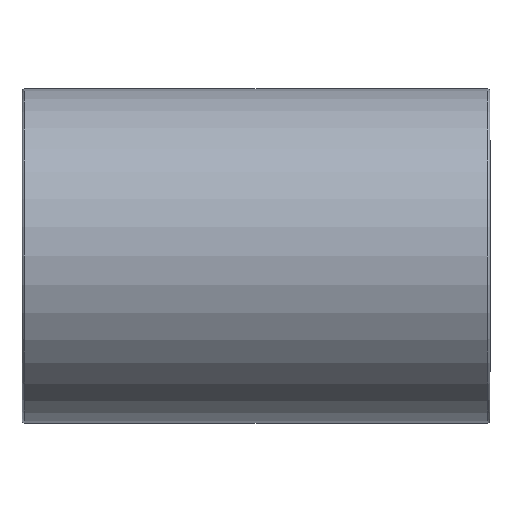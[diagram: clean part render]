
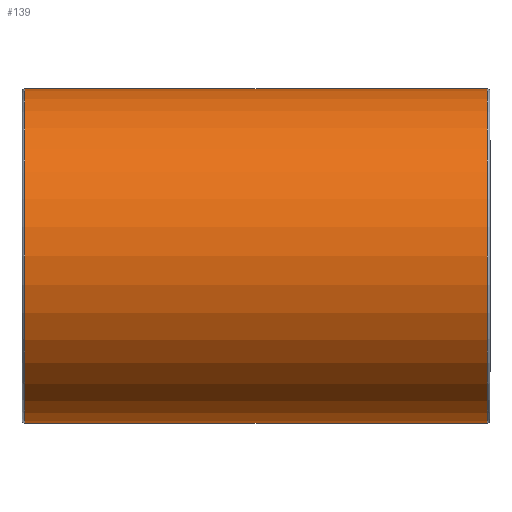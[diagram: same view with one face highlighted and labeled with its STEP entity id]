
A CAD part, front view. The second image highlights one B-rep face of the part: STEP entity #139.
In plain terms, the highlighted cylindrical face has radius 15 mm (diameter 30 mm), a full revolution.
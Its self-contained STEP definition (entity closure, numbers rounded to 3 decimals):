
#16=CYLINDRICAL_SURFACE('',#158,15.);
#27=FACE_BOUND('',#56,.T.);
#39=FACE_OUTER_BOUND('',#55,.T.);
#55=EDGE_LOOP('',(#115));
#56=EDGE_LOOP('',(#116));
#75=CIRCLE('',#157,15.);
#76=CIRCLE('',#159,15.);
#87=VERTEX_POINT('',#236);
#88=VERTEX_POINT('',#239);
#99=EDGE_CURVE('',#87,#87,#75,.T.);
#100=EDGE_CURVE('',#88,#88,#76,.T.);
#115=ORIENTED_EDGE('',*,*,#100,.F.);
#116=ORIENTED_EDGE('',*,*,#99,.F.);
#139=ADVANCED_FACE('',(#39,#27),#16,.T.);
#157=AXIS2_PLACEMENT_3D('',#237,#191,#192);
#158=AXIS2_PLACEMENT_3D('',#238,#193,#194);
#159=AXIS2_PLACEMENT_3D('',#240,#195,#196);
#191=DIRECTION('center_axis',(-1.,0.,0.));
#192=DIRECTION('ref_axis',(0.,-1.,0.));
#193=DIRECTION('center_axis',(1.,0.,0.));
#194=DIRECTION('ref_axis',(0.,1.,0.));
#195=DIRECTION('center_axis',(1.,0.,0.));
#196=DIRECTION('ref_axis',(0.,-1.,0.));
#236=CARTESIAN_POINT('',(-20.75,15.,0.));
#237=CARTESIAN_POINT('Origin',(-20.75,0.,0.));
#238=CARTESIAN_POINT('Origin',(0.,0.,
0.));
#239=CARTESIAN_POINT('',(20.75,15.,0.));
#240=CARTESIAN_POINT('Origin',(20.75,0.,0.));
